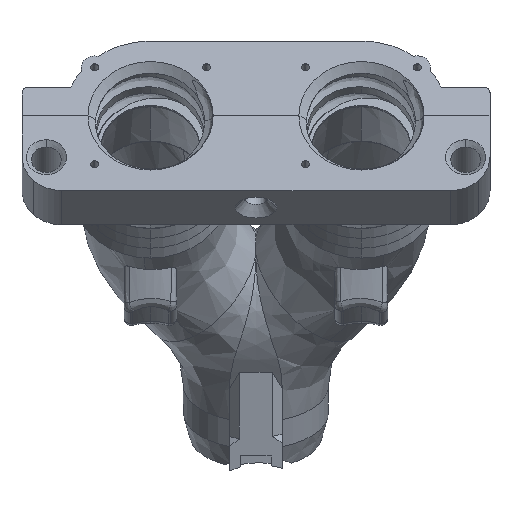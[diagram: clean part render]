
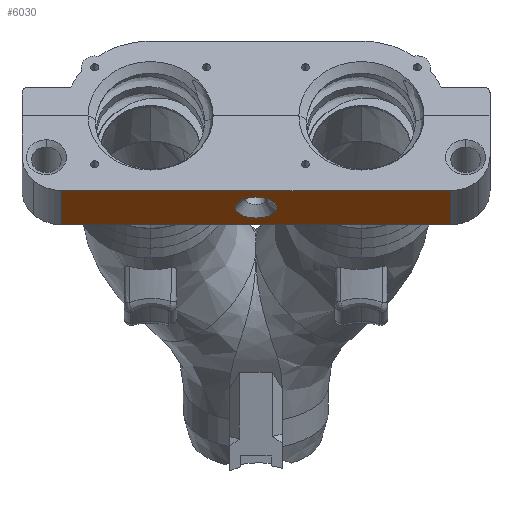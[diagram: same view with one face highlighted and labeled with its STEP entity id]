
A CAD part, front view. The second image highlights one B-rep face of the part: STEP entity #6030.
In plain terms, the highlighted planar face has unit normal (0, -0.5, -0.866) as drawn and (0.5, -0.866, 0) by its records, which use the part's own axes.
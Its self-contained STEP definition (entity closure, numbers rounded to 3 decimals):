
#356 = VERTEX_POINT ( 'NONE', #12296 ) ;
#477 = CARTESIAN_POINT ( 'NONE',  ( -89.615, -11.297, -29.483 ) ) ;
#1156 = ORIENTED_EDGE ( 'NONE', *, *, #27025, .F. ) ;
#1682 = VERTEX_POINT ( 'NONE', #22418 ) ;
#2091 = FACE_BOUND ( 'NONE', #10244, .T. ) ;
#2551 = CARTESIAN_POINT ( 'NONE',  ( -85.115, -8.699, 3.167 ) ) ;
#3252 = EDGE_CURVE ( 'NONE', #356, #12334, #17826, .T. ) ;
#3723 = EDGE_CURVE ( 'NONE', #16353, #29166, #20781, .T. ) ;
#4013 = VECTOR ( 'NONE', #28633, 1000. ) ;
#6030 = ADVANCED_FACE ( 'NONE', ( #2091, #12064 ), #29441, .T. ) ;
#7928 = ORIENTED_EDGE ( 'NONE', *, *, #21012, .F. ) ;
#8250 = CARTESIAN_POINT ( 'NONE',  ( -80.615, -6.101, -30.644 ) ) ;
#9017 = LINE ( 'NONE', #18811, #4013 ) ;
#9395 = DIRECTION ( 'NONE',  ( 0., 0., -1. ) ) ;
#9495 = CARTESIAN_POINT ( 'NONE',  ( -89.615, -11.297, 35.517 ) ) ;
#9617 = ORIENTED_EDGE ( 'NONE', *, *, #12297, .F. ) ;
#9655 = DIRECTION ( 'NONE',  ( 0.5, -0.866, 0. ) ) ;
#10244 = EDGE_LOOP ( 'NONE', ( #17338, #7928 ) ) ;
#10320 = VECTOR ( 'NONE', #29955, 1000. ) ;
#10345 = LINE ( 'NONE', #20127, #10320 ) ;
#10452 = DIRECTION ( 'NONE',  ( 0., 0., -1. ) ) ;
#10747 = CARTESIAN_POINT ( 'NONE',  ( -85.115, -8.699, 0.017 ) ) ;
#11219 = DIRECTION ( 'NONE',  ( 0., 0., -1. ) ) ;
#11283 = ORIENTED_EDGE ( 'NONE', *, *, #3252, .T. ) ;
#11941 = CARTESIAN_POINT ( 'NONE',  ( -80.615, -6.101, -16.126 ) ) ;
#11954 = ORIENTED_EDGE ( 'NONE', *, *, #3723, .F. ) ;
#12064 = FACE_OUTER_BOUND ( 'NONE', #26951, .T. ) ;
#12296 = CARTESIAN_POINT ( 'NONE',  ( -89.615, -11.297, 29.517 ) ) ;
#12297 = EDGE_CURVE ( 'NONE', #17134, #19206, #10345, .T. ) ;
#12334 = VERTEX_POINT ( 'NONE', #21226 ) ;
#15089 = LINE ( 'NONE', #24754, #29305 ) ;
#15149 = AXIS2_PLACEMENT_3D ( 'NONE', #20834, #21753, #9395 ) ;
#15402 = DIRECTION ( 'NONE',  ( 0.5, -0.866, 0. ) ) ;
#15819 = EDGE_CURVE ( 'NONE', #1682, #24660, #27972, .T. ) ;
#16353 = VERTEX_POINT ( 'NONE', #24786 ) ;
#17134 = VERTEX_POINT ( 'NONE', #20928 ) ;
#17338 = ORIENTED_EDGE ( 'NONE', *, *, #15819, .F. ) ;
#17577 = DIRECTION ( 'NONE',  ( 0., 0., -1. ) ) ;
#17826 = LINE ( 'NONE', #29753, #29093 ) ;
#18447 = VECTOR ( 'NONE', #17577, 1000. ) ;
#18811 = CARTESIAN_POINT ( 'NONE',  ( -89.615, -11.297, 29.517 ) ) ;
#19206 = VERTEX_POINT ( 'NONE', #477 ) ;
#20127 = CARTESIAN_POINT ( 'NONE',  ( -89.615, -11.297, -29.483 ) ) ;
#20781 = LINE ( 'NONE', #24742, #27756 ) ;
#20834 = CARTESIAN_POINT ( 'NONE',  ( -85.115, -8.699, 0.017 ) ) ;
#20928 = CARTESIAN_POINT ( 'NONE',  ( -80.615, -6.101, -29.483 ) ) ;
#21012 = EDGE_CURVE ( 'NONE', #24660, #1682, #23072, .T. ) ;
#21226 = CARTESIAN_POINT ( 'NONE',  ( -89.615, -11.297, -16.126 ) ) ;
#21753 = DIRECTION ( 'NONE',  ( 0.5, -0.866, 0. ) ) ;
#22418 = CARTESIAN_POINT ( 'NONE',  ( -85.115, -8.699, -3.133 ) ) ;
#22665 = EDGE_CURVE ( 'NONE', #19206, #12334, #15089, .T. ) ;
#23072 = CIRCLE ( 'NONE', #31293, 3.15 ) ;
#24231 = ORIENTED_EDGE ( 'NONE', *, *, #22665, .F. ) ;
#24660 = VERTEX_POINT ( 'NONE', #2551 ) ;
#24742 = CARTESIAN_POINT ( 'NONE',  ( -80.615, -6.101, -4.17 ) ) ;
#24754 = CARTESIAN_POINT ( 'NONE',  ( -89.615, -11.297, -20.966 ) ) ;
#24786 = CARTESIAN_POINT ( 'NONE',  ( -80.615, -6.101, 29.517 ) ) ;
#24903 = DIRECTION ( 'NONE',  ( 0., 0., 1. ) ) ;
#25296 = ORIENTED_EDGE ( 'NONE', *, *, #27962, .F. ) ;
#26537 = DIRECTION ( 'NONE',  ( 0., 0., -1. ) ) ;
#26951 = EDGE_LOOP ( 'NONE', ( #9617, #1156, #11954, #25296, #11283, #24231 ) ) ;
#27025 = EDGE_CURVE ( 'NONE', #29166, #17134, #30275, .T. ) ;
#27756 = VECTOR ( 'NONE', #30609, 1000. ) ;
#27962 = EDGE_CURVE ( 'NONE', #356, #16353, #9017, .T. ) ;
#27972 = CIRCLE ( 'NONE', #15149, 3.15 ) ;
#28633 = DIRECTION ( 'NONE',  ( 0.866, 0.5, 0. ) ) ;
#29093 = VECTOR ( 'NONE', #10452, 1000. ) ;
#29166 = VERTEX_POINT ( 'NONE', #11941 ) ;
#29237 = AXIS2_PLACEMENT_3D ( 'NONE', #9495, #9655, #26537 ) ;
#29305 = VECTOR ( 'NONE', #24903, 1000. ) ;
#29441 = PLANE ( 'NONE',  #29237 ) ;
#29753 = CARTESIAN_POINT ( 'NONE',  ( -89.615, -11.297, 30.834 ) ) ;
#29955 = DIRECTION ( 'NONE',  ( -0.866, -0.5, 0. ) ) ;
#30275 = LINE ( 'NONE', #8250, #18447 ) ;
#30609 = DIRECTION ( 'NONE',  ( 0., 0., -1. ) ) ;
#31293 = AXIS2_PLACEMENT_3D ( 'NONE', #10747, #15402, #11219 ) ;
